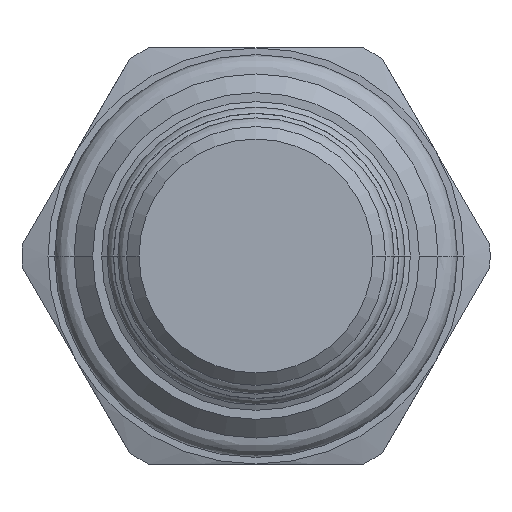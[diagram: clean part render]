
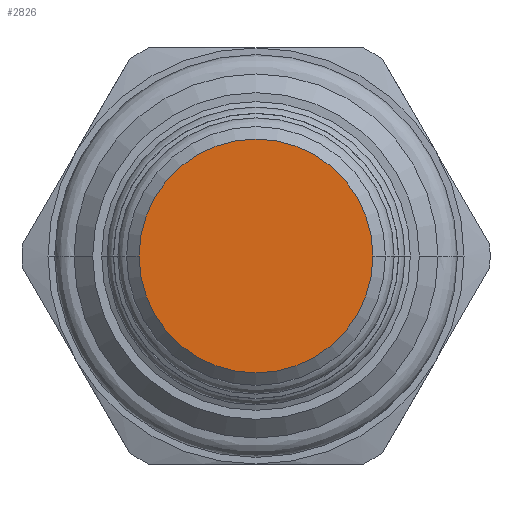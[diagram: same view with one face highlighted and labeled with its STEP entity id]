
A CAD part, front view. The second image highlights one B-rep face of the part: STEP entity #2826.
In plain terms, the highlighted planar face has unit normal (0, -1, 0).
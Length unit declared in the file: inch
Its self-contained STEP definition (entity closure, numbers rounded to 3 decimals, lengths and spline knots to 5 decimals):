
#554=CARTESIAN_POINT('',(0.,-1.81251,0.));
#555=DIRECTION('',(0.,-1.,0.));
#556=DIRECTION('',(-1.,0.,0.));
#557=AXIS2_PLACEMENT_3D('',#554,#555,#556);
#572=CARTESIAN_POINT('',(0.,-1.81251,0.));
#573=DIRECTION('',(0.,1.,0.));
#574=DIRECTION('',(-1.,0.,0.));
#575=AXIS2_PLACEMENT_3D('',#572,#573,#574);
#1651=CARTESIAN_POINT('',(-0.281,-1.81251,0.));
#1652=CARTESIAN_POINT('',(0.281,-1.81251,0.));
#1653=VERTEX_POINT('',#1651);
#1654=VERTEX_POINT('',#1652);
#2816=CARTESIAN_POINT('',(0.,-1.81251,0.));
#2817=DIRECTION('',(0.,-1.,0.));
#2818=DIRECTION('',(-1.,0.,0.));
#2819=AXIS2_PLACEMENT_3D('',#2816,#2817,#2818);
#2820=PLANE('',#2819);
#2821=ORIENTED_EDGE('',*,*,#2806,.F.);
#2823=ORIENTED_EDGE('',*,*,#2822,.T.);
#2824=EDGE_LOOP('',(#2821,#2823));
#2825=FACE_OUTER_BOUND('',#2824,.F.);
#2826=ADVANCED_FACE('',(#2825),#2820,.T.);
#558=CIRCLE('',#557,0.281);
#576=CIRCLE('',#575,0.281);
#2806=EDGE_CURVE('',#1653,#1654,#558,.T.);
#2822=EDGE_CURVE('',#1653,#1654,#576,.T.);
